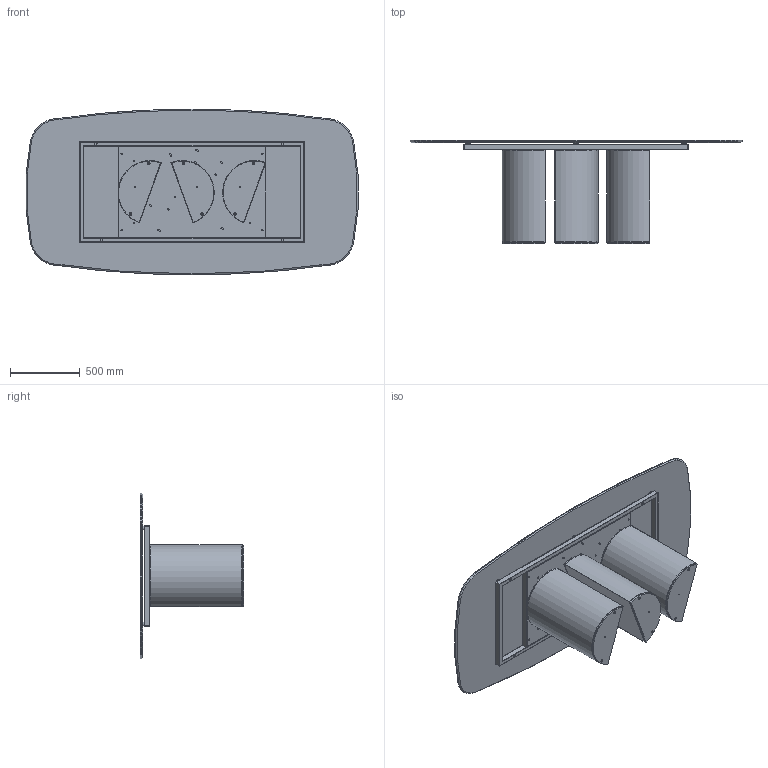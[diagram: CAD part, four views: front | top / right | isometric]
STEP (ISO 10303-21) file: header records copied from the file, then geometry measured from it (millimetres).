
FILE_DESCRIPTION (( 'STEP AP203' ), '1' );
FILE_NAME ('PL42C.STEP', '2024-08-07T13:54:55', ( '' ), ( '' ), 'SwSTEP 2.0', 'SolidWorks 2022', '' );
FILE_SCHEMA (( 'CONFIG_CONTROL_DESIGN' ));
Length unit declared in the file: millimetre
Products named in the file (14): M8xXXmm_hex_M8X20mm; PLA000000BAS-00-PLAI BASE GREZZA; TTAV0601_01-00-STRUTTURA X TAVOLI PLAI ONDA NOA 240; K4XCMXX-00-Piani Sagomati in ceramica_2390 x 1190; COLLO TELAIO UNIVERSALE TTAV0601 CON FERRAMENTA_FERRAMENTA MTG TOP CRISTALLO VERNICIATO-CERAMICA; Assieme Basamento PLAI_Basamento per tavoli; TTAV0601_02-00-VASSOIO TAVOLI PLAI ONDA NOA 240; M8xXXmm_M8x20mm; TTAV0601-00-TELAIO X TAVOLI PLAI ONDA NOA 240cm_TTAV06; PL42C; 434070-00-PIEDINO TPV GOMMA NERO D. 30x8max18_filo estetico; PLA000000ZOC-01-PLAI ZOCCOLO DELLA BASE; rondella M8_8X24; M8xXXmm_hex_M8X60mm
Assembly tree (30 placements, depth 4):
  PL42C
    COLLO TELAIO UNIVERSALE TTAV0601 CON FERRAMENTA_FERRAMENTA MTG TOP CRISTALLO VERNICIATO-CERAMICA
      TTAV0601-00-TELAIO X TAVOLI PLAI ONDA NOA 240cm_TTAV06
        TTAV0601_02-00-VASSOIO TAVOLI PLAI ONDA NOA 240
        TTAV0601_01-00-STRUTTURA X TAVOLI PLAI ONDA NOA 240
      434070-00-PIEDINO TPV GOMMA NERO D. 30x8max18_filo estetico  x6
    Assieme Basamento PLAI_Basamento per tavoli  x3
      PLA000000BAS-00-PLAI BASE GREZZA
      PLA000000ZOC-01-PLAI ZOCCOLO DELLA BASE
      M8xXXmm_hex_M8X60mm
      M8xXXmm_hex_M8X20mm
    rondella M8_8X24  x6
    M8xXXmm_M8x20mm  x6
    K4XCMXX-00-Piani Sagomati in ceramica_2390 x 1190
Bounding box: 2382.15 x 740 x 1190 mm (x, y, z)
Volume: 54529190.9 mm3; surface area: 19210436.6 mm2
Topology: 49 solids, 49 shells, 1137 faces, 2547 edges, 1490 vertices
Faces by surface type: plane 469, cylinder 343, cone 209, torus 108, sphere 8
Entity records: 19300 total; most frequent: DIRECTION 3222, CARTESIAN_POINT 2980, ORIENTED_EDGE 2818, EDGE_CURVE 1409, AXIS2_PLACEMENT_3D 1206, VERTEX_POINT 846, LINE 810, VECTOR 810
